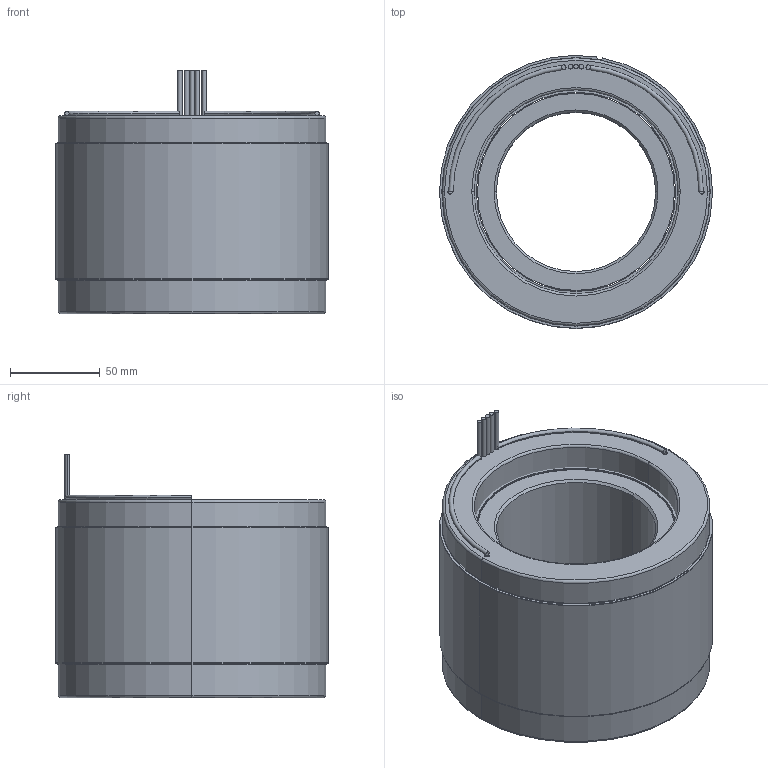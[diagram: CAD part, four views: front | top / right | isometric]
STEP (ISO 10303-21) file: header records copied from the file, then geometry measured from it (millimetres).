
FILE_DESCRIPTION (( 'STEP AP214' ), '1' );
FILE_NAME ('6100338-02.STEP', '2019-10-23T22:31:46', ( '' ), ( '' ), 'SwSTEP 2.0', 'SolidWorks 2016', '' );
FILE_SCHEMA (( 'AUTOMOTIVE_DESIGN' ));
Length unit declared in the file: millimetre
Products named in the file (12): 4600554-00; 4500541-XX_4500541-02; COMP4500541-XX(COIL)_COMP4500541-02(COIL); 4450181-XX_4450181-02; 4150168-XX_4150168-02; 4400094-00; 3100410-00_INSTALLED; 4250362-XX_4250362-02; 6100338-02
Assembly tree (12 placements, depth 4):
  6100338-02
    4250362-XX_4250362-02
      4150168-XX_4150168-02
    4500541-XX_4500541-02
      4450181-XX_4450181-02
        4450181-XX_4450181-02
        4400094-00
        4400094-00
        4600554-00
        4600554-00
      COMP4500541-XX(COIL)_COMP4500541-02(COIL)
      3100410-00_INSTALLED  x2
Bounding box: 152.4 x 152.39 x 135.89 mm (x, y, z)
Volume: 1720702.9 mm3; surface area: 309059.7 mm2
Topology: 20 solids, 20 shells, 128 faces, 246 edges, 160 vertices
Faces by surface type: cylinder 58, plane 54, torus 12, cone 4
Entity records: 3627 total; most frequent: DIRECTION 616, CARTESIAN_POINT 486, ORIENTED_EDGE 432, AXIS2_PLACEMENT_3D 270, EDGE_CURVE 216, CIRCLE 140, VERTEX_POINT 140, EDGE_LOOP 128
